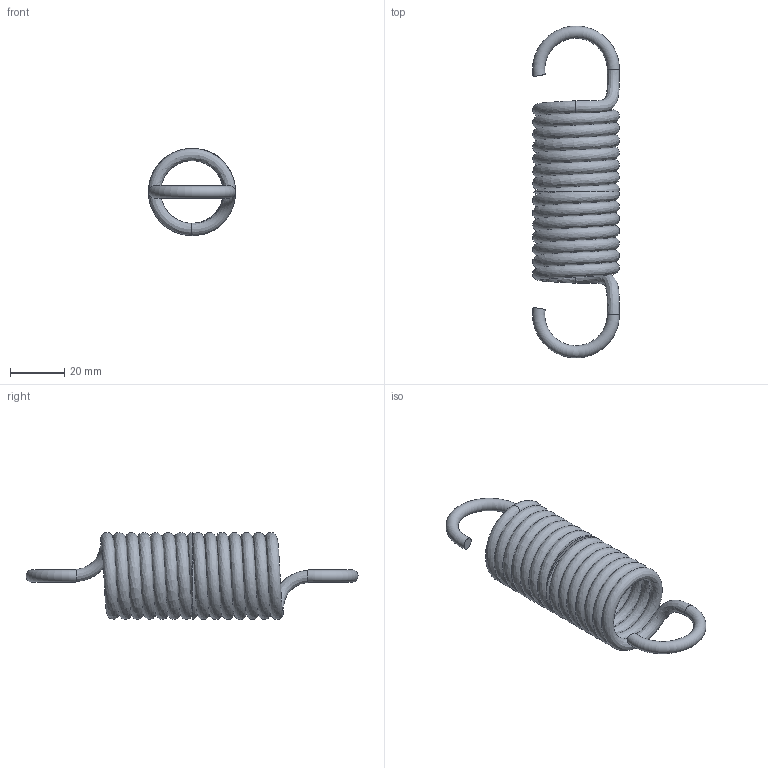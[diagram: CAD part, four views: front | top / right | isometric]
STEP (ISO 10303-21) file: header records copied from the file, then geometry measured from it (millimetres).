
FILE_DESCRIPTION(/* description */ ('570.6 | 10,50 | 0'),/* implementation_level */ '2;1');
FILE_NAME(/* name */ 'T22480.step',/* time_stamp */ '2026-10-05T10:27:14+02:00',/* author */ ('impex-ready.pl'),/* organization */ ('T22480'),/* preprocessor_version */ 'ST-DEVELOPER v20.1',/* originating_system */ 'Autodesk Inventor 2026',/* authorisation */ 'stal nierdzewna');
FILE_SCHEMA (('AUTOMOTIVE_DESIGN { 1 0 10303 214 3 1 1 }'));
Length unit declared in the file: millimetre
Products named in the file (1): T22480
Bounding box: 32 x 121.99 x 32 mm (x, y, z)
Volume: 21471 mm3; surface area: 19192.7 mm2
Topology: 1 solids, 1 shells, 10 faces, 34 edges, 22 vertices
Faces by surface type: plane 4, bspline 4, torus 2
Entity records: 3443 total; most frequent: CARTESIAN_POINT 3131, ORIENTED_EDGE 68, DIRECTION 42, EDGE_CURVE 34, VERTEX_POINT 22, AXIS2_PLACEMENT_3D 21, B_SPLINE_CURVE_WITH_KNOTS 20, CIRCLE 14
